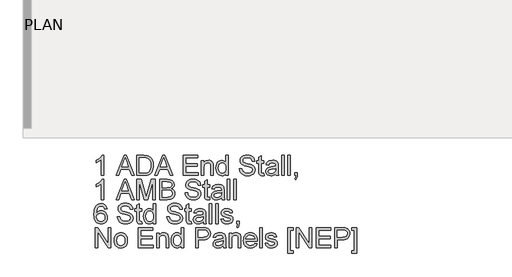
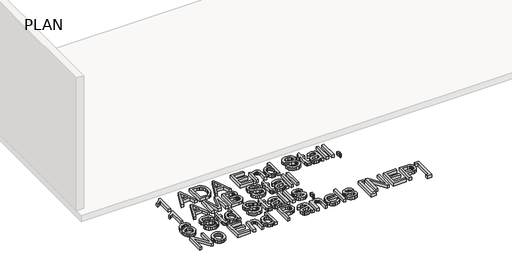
# One storey, part 5 of 21: 1 proxy.
"""IFC4 building model written with IfcOpenShell, lengths in millimetres."""

from ifc_helpers import new_model, si_unit, origin, origin_with_axes, place, context, project, spatial, polyline, outline, extrude, element, save

model = new_model("IFC4")

# Units and contexts
model_context = context("Model", 3, world=origin())
ifc_project = project(units=[si_unit("LENGTHUNIT", "METRE", prefix="MILLI")], contexts=[model_context])

# Site, building, storey
site = spatial("IfcSite", under=ifc_project)
building = spatial("IfcBuilding", under=site)
storey = spatial("IfcBuildingStorey", under=building, Name="PLAN", Elevation=0.0)

# Proxy
placement = place(None, origin())
element("IfcBuildingElementProxy", 1, Name="12\" Arial", ObjectType="12\" Arial", at=placement, inside=storey, context=model_context, shape_type="SweptSolid", body=[
    extrude(outline(polyline([(9828.5429993, -21890.1604361), (9790.4721126, -21890.1604361), (9790.4721126, -21652.8122515), (9754.4088702, -21678.5026643), (9714.330339, -21697.7240007), (9714.330339, -21661.7351156), (9744.2312284, -21645.4694779), (9770.1354182, -21626.1180164), (9790.5557644, -21605.5396611), (9804.0051231, -21585.5933421), (9828.5429993, -21585.5933421), (9828.5429993, -21890.1604361)])), origin_with_axes(), (0.0, 0.0, 1.0), 50.8),
    extrude(outline(polyline([(10016.7410743, -21890.1604361), (10138.3150974, -21585.5933421), (10170.7348369, -21585.5933421), (10292.3088601, -21890.1604361), (10252.0816145, -21890.1604361), (10217.2080874, -21794.9832192), (10091.7674898, -21794.9832192), (10056.9683199, -21890.1604361), (10016.7410743, -21890.1604361)]), holes=[polyline([(10105.7466435, -21756.9123325), (10203.3032908, -21756.9123325), (10175.8654838, -21682.0346314), (10154.5249672, -21623.6642288), (10135.563881, -21675.4911977), (10105.7466435, -21756.9123325)])]), origin_with_axes(), (0.0, 0.0, 1.0), 50.8),
    extrude(outline(polyline([(10332.9822489, -21890.1604361), (10332.9822489, -21585.5933421), (10438.0489735, -21585.5933421), (10492.4040872, -21589.9804169), (10516.6817132, -21598.4385485), (10537.167122, -21611.7670767), (10558.2287991, -21634.9665233), (10573.2303643, -21663.8171172), (10582.2089963, -21697.7611793), (10585.2018736, -21736.2410307), (10583.1756399, -21768.930315), (10577.0969388, -21797.6972571), (10567.8394673, -21822.18866), (10556.2769226, -21842.0513273), (10542.9669836, -21857.731402), (10528.4673295, -21869.6750273), (10511.8206112, -21878.5328289), (10492.0694798, -21884.9554321), (10443.1052631, -21890.1604361), (10332.9822489, -21890.1604361)]), holes=[polyline([(10371.0531356, -21852.0895494), (10438.4207595, -21852.0895494), (10466.2861204, -21850.7139412), (10487.4221547, -21846.5871165), (10503.3717743, -21839.9507363), (10515.677891, -21831.0464616), (10528.9041781, -21814.567047), (10538.840159, -21793.235825), (10545.0582799, -21766.9598492), (10547.1309869, -21735.6461731), (10543.0692248, -21694.1548551), (10530.8839385, -21663.5196884), (10512.8802013, -21642.4766006), (10491.3630864, -21629.7615193), (10469.4648907, -21625.1885514), (10437.3797586, -21623.6642288), (10371.0531356, -21623.6642288), (10371.0531356, -21852.0895494)])]), origin_with_axes(), (0.0, 0.0, 1.0), 50.8),
    extrude(outline(polyline([(10602.0809582, -21890.1604361), (10723.6549813, -21585.5933421), (10756.0747208, -21585.5933421), (10877.648744, -21890.1604361), (10837.4214984, -21890.1604361), (10802.5479713, -21794.9832192), (10677.1073737, -21794.9832192), (10642.3082038, -21890.1604361), (10602.0809582, -21890.1604361)]), holes=[polyline([(10691.0865274, -21756.9123325), (10788.6431748, -21756.9123325), (10761.2053677, -21682.0346314), (10739.8648511, -21623.6642288), (10720.9037649, -21675.4911977), (10691.0865274, -21756.9123325)])]), origin_with_axes(), (0.0, 0.0, 1.0), 50.8),
    extrude(outline(polyline([(11037.2936539, -21890.1604361), (11037.2936539, -21585.5933421), (11256.2012528, -21585.5933421), (11256.2012528, -21623.6642288), (11075.3645407, -21623.6642288), (11075.3645407, -21714.0825849), (11246.6835311, -21714.0825849), (11246.6835311, -21752.1534716), (11075.3645407, -21752.1534716), (11075.3645407, -21852.0895494), (11260.9601136, -21852.0895494), (11260.9601136, -21890.1604361), (11037.2936539, -21890.1604361)])), origin_with_axes(), (0.0, 0.0, 1.0), 50.8),
    extrude(outline(polyline([(11313.3075829, -21890.1604361), (11313.3075829, -21666.4939764), (11351.3784697, -21666.4939764), (11351.3784697, -21697.7240007), (11364.6047567, -21681.9788635), (11380.4893137, -21670.7323369), (11399.0321407, -21663.9844209), (11420.2332375, -21661.7351156), (11438.999136, -21663.5475723), (11456.184944, -21668.9849426), (11470.5172945, -21677.368717), (11480.7228203, -21688.020386), (11492.1366506, -21716.0158721), (11494.144295, -21752.8226864), (11494.144295, -21890.1604361), (11456.0734082, -21890.1604361), (11456.0734082, -21757.9533333), (11451.6863334, -21724.2695214), (11445.6169269, -21714.2405939), (11436.1828571, -21706.4609718), (11424.0905173, -21701.4697447), (11410.046301, -21699.8060023), (11387.7484354, -21703.5424517), (11368.740876, -21714.7517997), (11361.1448232, -21723.9023827), (11355.7190712, -21736.4083344), (11351.3784697, -21771.4863438), (11351.3784697, -21890.1604361), (11313.3075829, -21890.1604361)])), origin_with_axes(), (0.0, 0.0, 1.0), 50.8),
    extrude(outline(polyline([(11684.4987288, -21890.1604361), (11684.4987288, -21854.2459082), (11673.1081351, -21872.0405158), (11659.3102271, -21884.7509498), (11643.1050046, -21892.3772102), (11624.4924678, -21894.919297), (11599.8802344, -21891.2386155), (11577.3500026, -21880.1965712), (11558.2773806, -21862.56462), (11544.0379767, -21839.1142178), (11535.1708805, -21810.793419), (11532.2151818, -21778.5502779), (11534.9385142, -21746.7068067), (11543.1085117, -21717.9491593), (11556.7158794, -21693.9131942), (11575.7513228, -21676.2347697), (11598.774171, -21665.3600291), (11624.3437534, -21661.7351156), (11642.9702322, -21664.3283229), (11659.4403522, -21672.1079451), (11673.4009166, -21684.0329811), (11684.4987288, -21699.0624303), (11684.4987288, -21585.5933421), (11722.5696155, -21585.5933421), (11722.5696155, -21890.1604361), (11684.4987288, -21890.1604361)]), holes=[polyline([(11570.2860685, -21778.4015635), (11574.5801969, -21812.838242), (11587.4625819, -21837.329645), (11606.1820072, -21851.9687189), (11627.9872563, -21856.8484102), (11649.7832107, -21852.1917905), (11668.0286088, -21838.2219314), (11680.3811988, -21814.6785828), (11684.4987288, -21781.3014943), (11680.3068416, -21744.8106981), (11667.73118, -21719.5106605), (11649.0210494, -21704.7321669), (11626.425755, -21699.8060023), (11604.3974343, -21704.5369792), (11586.3472239, -21718.7299099), (11574.3013574, -21743.1097771), (11570.2860685, -21778.4015635)])]), origin_with_axes(), (0.0, 0.0, 1.0), 50.8),
    extrude(outline(polyline([(11889.1297451, -21785.4654975), (11927.2006319, -21785.4654975), (11931.5691174, -21806.5922372), (11939.46957, -21823.5735629), (11951.794276, -21837.0508055), (11969.4355219, -21847.6652959), (11990.9991101, -21854.5526316), (12015.0908431, -21856.8484102), (12036.3012346, -21855.1103106), (12054.8719455, -21849.8960119), (12069.919984, -21841.6423627), (12080.5623583, -21830.7862114), (12086.892015, -21818.3220856), (12089.0019006, -21805.2445129), (12087.4218101, -21792.5015477), (12082.6815385, -21781.4873873), (12073.0522811, -21772.0904961), (12056.8052327, -21764.1993381), (12001.3719396, -21749.6625054), (11964.9833845, -21740.0425426), (11941.700286, -21730.8873122), (11922.7484945, -21718.0792844), (11909.3177251, -21702.5572188), (11901.3150314, -21684.6557227), (11898.6474668, -21664.7094036), (11901.9470676, -21642.411538), (11911.8458699, -21621.6194058), (11928.0836236, -21603.9967492), (11950.4000785, -21591.2073107), (11977.18726, -21583.4276886), (12006.8371938, -21580.8344812), (12038.9595045, -21583.548519), (12067.0665264, -21591.6906325), (12090.1544372, -21605.0935179), (12107.2194148, -21623.5898716), (12118.0197982, -21646.0271569), (12122.3139265, -21671.2528373), (12084.2430398, -21671.2528373), (12077.2534629, -21648.5367124), (12062.6794516, -21632.1409497), (12039.9075588, -21622.2142634), (12008.3243378, -21618.905368), (11975.9975448, -21622.1770848), (11953.8205097, -21631.9922353), (11940.9938926, -21646.4361215), (11936.7183536, -21663.5940456), (11939.7484095, -21678.2238248), (11948.8385773, -21689.9908518), (11970.3278083, -21700.5123957), (12011.0011971, -21711.2570112), (12052.9758369, -21721.462537), (12078.3688209, -21730.3668118), (12100.0718289, -21744.1786618), (12115.2128138, -21761.2250501), (12124.107794, -21781.3200836), (12127.0727874, -21804.2778693), (12123.6616508, -21827.7468608), (12113.428241, -21849.8216547), (12096.7908174, -21868.8199195), (12074.1676391, -21883.0593235), (12046.9621983, -21891.9543036), (12016.5779871, -21894.919297), (11979.2785563, -21891.7219373), (11948.5783271, -21882.1298584), (11924.1241027, -21866.1058817), (11905.5626865, -21843.6128285), (11893.6469451, -21816.2122), (11889.1297451, -21785.4654975)])), origin_with_axes(), (0.0, 0.0, 1.0), 50.8),
    extrude(outline(polyline([(12260.320891, -21858.4099114), (12265.0797519, -21891.2757941), (12236.600944, -21894.919297), (12218.3276619, -21893.3392065), (12204.7017049, -21888.5989349), (12195.0724474, -21881.2933399), (12188.7892639, -21872.0172792), (12185.3316541, -21856.0862489), (12184.1791175, -21828.8157455), (12184.1791175, -21704.5648632), (12155.6259524, -21704.5648632), (12155.6259524, -21666.4939764), (12184.1791175, -21666.4939764), (12184.1791175, -21612.1388627), (12222.2500043, -21589.7573453), (12222.2500043, -21666.4939764), (12260.320891, -21666.4939764), (12260.320891, -21704.5648632), (12222.2500043, -21704.5648632), (12222.2500043, -21827.7003875), (12224.2576487, -21847.3306885), (12230.7639037, -21854.2830868), (12243.7392353, -21856.8484102), (12260.320891, -21858.4099114)])), origin_with_axes(), (0.0, 0.0, 1.0), 50.8),
    extrude(outline(polyline([(12441.1576031, -21861.6072711), (12422.9679729, -21877.2036939), (12404.239253, -21887.4092197), (12384.5438894, -21893.0417776), (12363.4543284, -21894.919297), (12331.6387411, -21890.402097), (12308.1697497, -21876.8504972), (12293.6979795, -21856.2721419), (12288.8740561, -21830.6746756), (12290.6958075, -21814.8923597), (12296.1610618, -21800.5600093), (12304.5913094, -21788.2910712), (12315.3080409, -21778.6989923), (12341.9650974, -21766.2069826), (12374.9053373, -21760.4814781), (12413.8313319, -21754.4585448), (12440.9345315, -21747.3946108), (12441.1576031, -21738.9178899), (12438.5365118, -21721.9272695), (12430.6732378, -21710.810868), (12413.0877599, -21702.5572188), (12388.5870622, -21699.8060023), (12365.908116, -21701.6370484), (12350.0700323, -21707.1301866), (12339.2696489, -21717.2892391), (12331.7038037, -21733.1180282), (12293.6329169, -21728.3591674), (12300.2414131, -21707.5391512), (12310.1030369, -21691.180567), (12324.1379585, -21678.669968), (12343.2663484, -21669.3939072), (12366.6609827, -21663.6498135), (12393.4946375, -21661.7351156), (12419.2315236, -21663.4267419), (12439.6332805, -21668.5016208), (12455.0159264, -21676.1325286), (12465.6954793, -21685.4922412), (12472.7780027, -21697.0640806), (12477.3695599, -21711.3313684), (12479.2284899, -21744.6433944), (12479.2284899, -21792.0089312), (12481.1617771, -21858.1496612), (12488.7462116, -21890.1604361), (12450.6753248, -21890.1604361), (12444.5780343, -21876.9248544), (12441.1576031, -21861.6072711)]), holes=[polyline([(12441.1576031, -21785.4654975), (12379.7385553, -21797.139578), (12346.9842084, -21803.3112257), (12332.1499469, -21813.3494478), (12326.9449428, -21827.9978163), (12329.7798111, -21839.3187001), (12338.2844159, -21848.5947609), (12352.2728643, -21854.7849979), (12371.5592633, -21856.8484102), (12392.0074935, -21854.5712209), (12410.0762932, -21847.7396531), (12424.7246618, -21837.6735471), (12434.9115983, -21825.6927431), (12439.4287982, -21813.3494478), (12440.9345315, -21796.2472916), (12441.1576031, -21785.4654975)])]), origin_with_axes(), (0.0, 0.0, 1.0), 50.8),
    extrude(outline(polyline([(12531.5759592, -21890.1604361), (12531.5759592, -21585.5933421), (12569.6468459, -21585.5933421), (12569.6468459, -21890.1604361), (12531.5759592, -21890.1604361)])), origin_with_axes(), (0.0, 0.0, 1.0), 50.8),
    extrude(outline(polyline([(12626.7531761, -21890.1604361), (12626.7531761, -21585.5933421), (12664.8240628, -21585.5933421), (12664.8240628, -21890.1604361), (12626.7531761, -21890.1604361)])), origin_with_axes(), (0.0, 0.0, 1.0), 50.8),
    extrude(outline(polyline([(12731.4481147, -21890.1604361), (12731.4481147, -21852.0895494), (12769.5190014, -21852.0895494), (12769.5190014, -21890.1604361), (12767.8087858, -21911.9378013), (12762.6781389, -21929.0864307), (12753.8296321, -21942.2383606), (12740.9658363, -21952.0256271), (12731.4481147, -21937.7490446), (12739.7017639, -21930.8524142), (12745.4272684, -21921.3161032), (12750.4092008, -21890.1604361), (12731.4481147, -21890.1604361)])), origin_with_axes(), (0.0, 0.0, 1.0), 50.8),
    extrude(outline(polyline([(9828.5429993, -22256.2131005), (9790.4721126, -22256.2131005), (9790.4721126, -22018.8649158), (9754.4088702, -22044.5553287), (9714.330339, -22063.776665), (9714.330339, -22027.7877799), (9744.2312284, -22011.5221423), (9770.1354182, -21992.1706808), (9790.5557644, -21971.5923255), (9804.0051231, -21951.6460064), (9828.5429993, -21951.6460064), (9828.5429993, -22256.2131005)])), origin_with_axes(), (0.0, 0.0, 1.0), 50.8),
    extrude(outline(polyline([(10016.7410743, -22256.2131005), (10138.3150974, -21951.6460064), (10170.7348369, -21951.6460064), (10292.3088601, -22256.2131005), (10252.0816145, -22256.2131005), (10217.2080874, -22161.0358836), (10091.7674898, -22161.0358836), (10056.9683199, -22256.2131005), (10016.7410743, -22256.2131005)]), holes=[polyline([(10105.7466435, -22122.9649968), (10203.3032908, -22122.9649968), (10175.8654838, -22048.0872957), (10154.5249672, -21989.7168932), (10135.563881, -22041.543862), (10105.7466435, -22122.9649968)])]), origin_with_axes(), (0.0, 0.0, 1.0), 50.8),
    extrude(outline(polyline([(10332.9822489, -22256.2131005), (10332.9822489, -21951.6460064), (10398.4909427, -21951.6460064), (10460.8022769, -22166.3152448), (10473.3686438, -22211.1526368), (10486.9760115, -22162.5973848), (10548.2463449, -21951.6460064), (10613.7550387, -21951.6460064), (10613.7550387, -22256.2131005), (10575.6841519, -22256.2131005), (10575.6841519, -21989.7168932), (10499.1705924, -22256.2131005), (10447.5666951, -22256.2131005), (10371.0531356, -21989.7168932), (10371.0531356, -22256.2131005), (10332.9822489, -22256.2131005)])), origin_with_axes(), (0.0, 0.0, 1.0), 50.8),
    extrude(outline(polyline([(10680.3790905, -22256.2131005), (10680.3790905, -21951.6460064), (10796.5993952, -21951.6460064), (10828.5636969, -21953.8860171), (10853.5198324, -21960.6060491), (10872.6482222, -21971.9734061), (10887.1292871, -21988.1553919), (10896.2473388, -22007.1908353), (10899.2866894, -22027.1185651), (10896.7306606, -22045.4569097), (10889.0625743, -22062.6984856), (10876.2266625, -22077.7837027), (10858.1671574, -22089.6529709), (10879.7400403, -22100.9180868), (10895.6803652, -22118.0574216), (10905.5233996, -22139.9370279), (10908.8044111, -22165.4229584), (10906.5644004, -22186.6612339), (10899.8443684, -22206.3565974), (10889.815441, -22223.1055569), (10877.648744, -22235.5046201), (10862.7494199, -22244.4832521), (10844.5226111, -22250.9709178), (10795.7071088, -22256.2131005), (10680.3790905, -22256.2131005)]), holes=[polyline([(10718.4499773, -22075.3763884), (10787.9739599, -22075.3763884), (10828.5729915, -22072.1046715), (10842.7845115, -22066.4628189), (10852.999332, -22058.013982), (10859.161685, -22046.8882858), (10861.2158026, -22033.2158556), (10859.3011047, -22019.9430952), (10853.557011, -22008.3805505), (10844.2437716, -21999.3554453), (10831.6216368, -21993.6950034), (10782.6945987, -21989.7168932), (10718.4499773, -21989.7168932), (10718.4499773, -22075.3763884)]), polyline([(10718.4499773, -22218.1422137), (10796.525038, -22218.1422137), (10824.7807743, -22216.6550697), (10848.6866143, -22208.3642418), (10864.5246981, -22191.4479787), (10869.1813178, -22179.4950586), (10870.7335243, -22165.7947444), (10868.9117729, -22149.8823035), (10863.4465187, -22136.2005785), (10853.900913, -22125.5024363), (10839.8381074, -22118.5407434), (10819.9196723, -22114.7206422), (10792.807178, -22113.4472751), (10718.4499773, -22113.4472751), (10718.4499773, -22218.1422137)])]), origin_with_axes(), (0.0, 0.0, 1.0), 50.8),
    extrude(outline(polyline([(11065.846819, -22151.5181619), (11103.9177057, -22151.5181619), (11108.2861913, -22172.6449015), (11116.1866438, -22189.6262272), (11128.5113499, -22203.1034699), (11146.1525957, -22213.7179603), (11167.7161839, -22220.605296), (11191.807917, -22222.9010745), (11213.0183085, -22221.162975), (11231.5890193, -22215.9486763), (11246.6370578, -22207.695027), (11257.2794322, -22196.8388757), (11263.6090889, -22184.3747499), (11265.7189744, -22171.2971773), (11264.1388839, -22158.554212), (11259.3986124, -22147.5400516), (11249.7693549, -22138.1431604), (11233.5223065, -22130.2520025), (11178.0890134, -22115.7151697), (11141.7004583, -22106.0952069), (11118.4173599, -22096.9399766), (11099.4655683, -22084.1319487), (11086.034799, -22068.6098831), (11078.0321052, -22050.708387), (11075.3645407, -22030.7620679), (11078.6641414, -22008.4642024), (11088.5629438, -21987.6720701), (11104.8006975, -21970.0494136), (11127.1171523, -21957.259975), (11153.9043339, -21949.4803529), (11183.5542677, -21946.8871455), (11215.6765784, -21949.6011834), (11243.7836002, -21957.7432969), (11266.8715111, -21971.1461823), (11283.9364886, -21989.642536), (11294.736872, -22012.0798213), (11299.0310004, -22037.3055016), (11260.9601136, -22037.3055016), (11253.9705367, -22014.5893768), (11239.3965254, -21998.193614), (11216.6246327, -21988.2669277), (11185.0414117, -21984.9580323), (11152.7146187, -21988.2297491), (11130.5375836, -21998.0448996), (11117.7109665, -22012.4887859), (11113.4354274, -22029.6467099), (11116.4654833, -22044.2764892), (11125.5556511, -22056.0435162), (11147.0448821, -22066.5650601), (11187.7182709, -22077.3096756), (11229.6929107, -22087.5152014), (11255.0858947, -22096.4194762), (11276.7889027, -22110.2313262), (11291.9298877, -22127.2777144), (11300.8248678, -22147.3727479), (11303.7898612, -22170.3305337), (11300.3787246, -22193.7995251), (11290.1453149, -22215.8743191), (11273.5078912, -22234.8725839), (11250.8847129, -22249.1119878), (11223.6792721, -22258.0069679), (11193.295061, -22260.9719613), (11155.9956302, -22257.7746017), (11125.2954009, -22248.1825228), (11100.8411765, -22232.158546), (11082.2797603, -22209.6654928), (11070.3640189, -22182.2648644), (11065.846819, -22151.5181619)])), origin_with_axes(), (0.0, 0.0, 1.0), 50.8),
    extrude(outline(polyline([(11437.0379649, -22224.4625758), (11441.7968257, -22257.3284585), (11413.3180178, -22260.9719613), (11395.0447358, -22259.3918708), (11381.4187787, -22254.6515992), (11371.7895212, -22247.3460043), (11365.5063378, -22238.0699435), (11362.048728, -22222.1389132), (11360.8961913, -22194.8684099), (11360.8961913, -22070.6175275), (11332.3430263, -22070.6175275), (11332.3430263, -22032.5466408), (11360.8961913, -22032.5466408), (11360.8961913, -21978.191527), (11398.9670781, -21955.8100096), (11398.9670781, -22032.5466408), (11437.0379649, -22032.5466408), (11437.0379649, -22070.6175275), (11398.9670781, -22070.6175275), (11398.9670781, -22193.7530519), (11400.9747225, -22213.3833529), (11407.4809776, -22220.3357511), (11420.4563091, -22222.9010745), (11437.0379649, -22224.4625758)])), origin_with_axes(), (0.0, 0.0, 1.0), 50.8),
    extrude(outline(polyline([(11617.874677, -22227.6599354), (11599.6850467, -22243.2563582), (11580.9563268, -22253.461884), (11561.2609633, -22259.094442), (11540.1714022, -22260.9719613), (11508.355815, -22256.4547614), (11484.8868235, -22242.9031615), (11470.4150533, -22222.3248062), (11465.5911299, -22196.7273399), (11467.4128813, -22180.9450241), (11472.8781356, -22166.6126736), (11481.3083832, -22154.3437355), (11492.0251148, -22144.7516566), (11518.6821712, -22132.2596469), (11551.6224111, -22126.5341424), (11590.5484057, -22120.5112092), (11617.6516054, -22113.4472751), (11617.874677, -22104.9705542), (11615.2535856, -22087.9799339), (11607.3903117, -22076.8635324), (11589.8048337, -22068.6098831), (11565.3041361, -22065.8586667), (11542.6251899, -22067.6897127), (11526.7871061, -22073.1828509), (11515.9867227, -22083.3419035), (11508.4208775, -22099.1706926), (11470.3499908, -22094.4118317), (11476.958487, -22073.5918155), (11486.8201107, -22057.2332314), (11500.8550324, -22044.7226324), (11519.9834222, -22035.4465716), (11543.3780565, -22029.7024778), (11570.2117113, -22027.7877799), (11595.9485974, -22029.4794062), (11616.3503543, -22034.5542852), (11631.7330002, -22042.1851929), (11642.4125532, -22051.5449055), (11649.4950766, -22063.1167449), (11654.0866337, -22077.3840328), (11655.9455637, -22110.6960587), (11655.9455637, -22158.0615955), (11657.8788509, -22224.2023256), (11665.4632854, -22256.2131005), (11627.3923987, -22256.2131005), (11621.2951082, -22242.9775187), (11617.874677, -22227.6599354)]), holes=[polyline([(11617.874677, -22151.5181619), (11556.4556292, -22163.1922424), (11523.7012823, -22169.36389), (11508.8670207, -22179.4021121), (11503.6620167, -22194.0504807), (11506.496885, -22205.3713645), (11515.0014898, -22214.6474253), (11528.9899382, -22220.8376622), (11548.2763371, -22222.9010745), (11568.7245673, -22220.6238853), (11586.7933671, -22213.7923175), (11601.4417356, -22203.7262114), (11611.6286721, -22191.7454075), (11616.145872, -22179.4021121), (11617.6516054, -22162.299956), (11617.874677, -22151.5181619)])]), origin_with_axes(), (0.0, 0.0, 1.0), 50.8),
    extrude(outline(polyline([(11708.293033, -22256.2131005), (11708.293033, -21951.6460064), (11746.3639198, -21951.6460064), (11746.3639198, -22256.2131005), (11708.293033, -22256.2131005)])), origin_with_axes(), (0.0, 0.0, 1.0), 50.8),
    extrude(outline(polyline([(11803.4702499, -22256.2131005), (11803.4702499, -21951.6460064), (11841.5411367, -21951.6460064), (11841.5411367, -22256.2131005), (11803.4702499, -22256.2131005)])), origin_with_axes(), (0.0, 0.0, 1.0), 50.8),
    extrude(outline(polyline([(9880.8904686, -22398.5993051), (9842.8195818, -22403.3581659), (9836.6851128, -22384.4900263), (9828.3942849, -22371.6076412), (9811.124825, -22359.7290784), (9790.249041, -22355.7695575), (9772.5520272, -22358.0746307), (9755.8960142, -22364.9898504), (9741.5915477, -22379.5545671), (9729.9081726, -22399.6031273), (9722.0170147, -22427.9611047), (9719.0891999, -22467.4540729), (9734.36031, -22449.6362287), (9752.661476, -22437.0791565), (9772.9702864, -22429.6341417), (9794.2643298, -22427.1524702), (9812.5562012, -22428.8487438), (9829.4352857, -22433.9375647), (9844.9015835, -22442.4189329), (9858.9550944, -22454.2928484), (9870.6338222, -22468.8529178), (9878.9757707, -22485.3927476), (9883.9809398, -22503.9123379), (9885.6493294, -22524.4116887), (9882.5077377, -22551.6728974), (9873.0829625, -22576.945051), (9858.1557545, -22598.3785141), (9838.5068642, -22614.1236513), (9815.0285781, -22623.7993821), (9788.6131825, -22627.0246256), (9765.9179707, -22624.8868561), (9745.4209436, -22618.4735476), (9727.1221012, -22607.7847), (9711.0214436, -22592.8203133), (9697.895074, -22572.9483514), (9688.5190957, -22547.5367781), (9682.8935088, -22516.5855933), (9681.0183131, -22480.0947971), (9683.1003147, -22439.1843947), (9689.3463196, -22404.2690416), (9699.7563277, -22375.3487379), (9714.330339, -22352.4234835), (9730.1265969, -22337.2313779), (9748.4417049, -22326.3798739), (9769.275663, -22319.8689715), (9792.6284714, -22317.6986707), (9826.0334438, -22323.0709785), (9852.7834467, -22339.1879017), (9871.5214613, -22364.7853681), (9880.8904686, -22398.5993051)]), holes=[polyline([(9719.0891999, -22523.8168311), (9721.292032, -22540.686621), (9727.9005282, -22556.7942496), (9738.1618219, -22570.6432782), (9751.3230464, -22580.7372682), (9767.2076034, -22586.8996212), (9785.6388945, -22588.9537389), (9810.7623337, -22584.6967891), (9830.5134651, -22571.9259399), (9843.3121983, -22551.8494957), (9847.5784427, -22525.6757611), (9843.3679662, -22500.5523219), (9830.7365367, -22481.3960481), (9810.6507979, -22469.2665297), (9784.0773933, -22465.2233569), (9758.9911327, -22469.2665297), (9738.0131075, -22481.3960481), (9723.8201768, -22500.0875894), (9719.0891999, -22523.8168311)])]), origin_with_axes(), (0.0, 0.0, 1.0), 50.8),
    extrude(outline(polyline([(10037.9328765, -22517.5708262), (10076.0037632, -22517.5708262), (10080.3722488, -22538.6975659), (10088.2727014, -22555.6788916), (10100.5974074, -22569.1561342), (10118.2386532, -22579.7706246), (10139.8022414, -22586.6579603), (10163.8939745, -22588.9537389), (10185.104366, -22587.2156393), (10203.6750768, -22582.0013406), (10218.7231153, -22573.7476913), (10229.3654897, -22562.89154), (10235.6951464, -22550.4274143), (10237.805032, -22537.3498416), (10236.2249415, -22524.6068763), (10231.4846699, -22513.592716), (10221.8554124, -22504.1958247), (10205.6083641, -22496.3046668), (10150.1750709, -22481.7678341), (10113.7865158, -22472.1478712), (10090.5034174, -22462.9926409), (10071.5516259, -22450.1846131), (10058.1208565, -22434.6625474), (10050.1181627, -22416.7610514), (10047.4505982, -22396.8147323), (10050.750199, -22374.5168667), (10060.6490013, -22353.7247345), (10076.886755, -22336.1020779), (10099.2032099, -22323.3126394), (10125.9903914, -22315.5330173), (10155.6403252, -22312.9398099), (10187.7626359, -22315.6538477), (10215.8696578, -22323.7959612), (10238.9575686, -22337.1988466), (10256.0225461, -22355.6952003), (10266.8229295, -22378.1324856), (10271.1170579, -22403.3581659), (10233.0461711, -22403.3581659), (10226.0565943, -22380.6420411), (10211.4825829, -22364.2462784), (10188.7106902, -22354.3195921), (10157.1274692, -22351.0106966), (10124.8006762, -22354.2824135), (10102.6236411, -22364.097564), (10089.797024, -22378.5414502), (10085.5214849, -22395.6993743), (10088.5515409, -22410.3291535), (10097.6417086, -22422.0961805), (10119.1309396, -22432.6177244), (10159.8043284, -22443.3623399), (10201.7789682, -22453.5678657), (10227.1719523, -22462.4721405), (10248.8749602, -22476.2839905), (10264.0159452, -22493.3303788), (10272.9109253, -22513.4254123), (10275.8759187, -22536.383198), (10272.4647821, -22559.8521895), (10262.2313724, -22581.9269834), (10245.5939487, -22600.9252482), (10222.9707704, -22615.1646521), (10195.7653296, -22624.0596323), (10165.3811185, -22627.0246256), (10128.0816877, -22623.827266), (10097.3814584, -22614.2351871), (10072.9272341, -22598.2112104), (10054.3658178, -22575.7181572), (10042.4500764, -22548.3175287), (10037.9328765, -22517.5708262)])), origin_with_axes(), (0.0, 0.0, 1.0), 50.8),
    extrude(outline(polyline([(10409.1240224, -22590.5152401), (10413.8828832, -22623.3811228), (10385.4040754, -22627.0246256), (10367.1307933, -22625.4445351), (10353.5048363, -22620.7042636), (10343.8755788, -22613.3986686), (10337.5923953, -22604.1226078), (10334.1347855, -22588.1915776), (10332.9822489, -22560.9210742), (10332.9822489, -22436.6701919), (10304.4290838, -22436.6701919), (10304.4290838, -22398.5993051), (10332.9822489, -22398.5993051), (10332.9822489, -22344.2441914), (10371.0531356, -22321.862674), (10371.0531356, -22398.5993051), (10409.1240224, -22398.5993051), (10409.1240224, -22436.6701919), (10371.0531356, -22436.6701919), (10371.0531356, -22559.8057162), (10373.06078, -22579.4360172), (10379.5670351, -22586.3884155), (10392.5423666, -22588.9537389), (10409.1240224, -22590.5152401)])), origin_with_axes(), (0.0, 0.0, 1.0), 50.8),
    extrude(outline(polyline([(10585.2018736, -22622.2657648), (10585.2018736, -22586.3512369), (10573.81128, -22604.1458445), (10560.0133719, -22616.8562785), (10543.8081495, -22624.4825388), (10525.1956127, -22627.0246256), (10500.5833792, -22623.3439442), (10478.0531474, -22612.3018999), (10458.9805254, -22594.6699487), (10444.7411215, -22571.2195465), (10435.8740253, -22542.8987477), (10432.9183266, -22510.6556065), (10435.6416591, -22478.8121354), (10443.8116565, -22450.054488), (10457.4190242, -22426.0185229), (10476.4544676, -22408.3400984), (10499.4773159, -22397.4653578), (10525.0468983, -22393.8404442), (10543.673377, -22396.4336516), (10560.143497, -22404.2132737), (10574.1040614, -22416.1383098), (10585.2018736, -22431.167759), (10585.2018736, -22317.6986707), (10623.2727604, -22317.6986707), (10623.2727604, -22622.2657648), (10585.2018736, -22622.2657648)]), holes=[polyline([(10470.9892134, -22510.5068921), (10475.2833417, -22544.9435707), (10488.1657267, -22569.4349737), (10506.885152, -22584.0740476), (10528.6904011, -22588.9537389), (10550.4863556, -22584.2971192), (10568.7317537, -22570.3272601), (10581.0843436, -22546.7839114), (10585.2018736, -22513.406823), (10581.0099864, -22476.9160267), (10568.4343249, -22451.6159892), (10549.7241943, -22436.8374956), (10527.1288999, -22431.911331), (10505.1005792, -22436.6423079), (10487.0503687, -22450.8352386), (10475.0045022, -22475.2151058), (10470.9892134, -22510.5068921)])]), origin_with_axes(), (0.0, 0.0, 1.0), 50.8),
    extrude(outline(polyline([(10789.83289, -22517.5708262), (10827.9037767, -22517.5708262), (10832.2722623, -22538.6975659), (10840.1727148, -22555.6788916), (10852.4974209, -22569.1561342), (10870.1386667, -22579.7706246), (10891.7022549, -22586.6579603), (10915.793988, -22588.9537389), (10937.0043795, -22587.2156393), (10955.5750903, -22582.0013406), (10970.6231288, -22573.7476913), (10981.2655032, -22562.89154), (10987.5951599, -22550.4274143), (10989.7050454, -22537.3498416), (10988.1249549, -22524.6068763), (10983.3846834, -22513.592716), (10973.7554259, -22504.1958247), (10957.5083775, -22496.3046668), (10902.0750844, -22481.7678341), (10865.6865293, -22472.1478712), (10842.4034309, -22462.9926409), (10823.4516393, -22450.1846131), (10810.02087, -22434.6625474), (10802.0181762, -22416.7610514), (10799.3506117, -22396.8147323), (10802.6502124, -22374.5168667), (10812.5490148, -22353.7247345), (10828.7867685, -22336.1020779), (10851.1032233, -22323.3126394), (10877.8904049, -22315.5330173), (10907.5403387, -22312.9398099), (10939.6626494, -22315.6538477), (10967.7696712, -22323.7959612), (10990.8575821, -22337.1988466), (11007.9225596, -22355.6952003), (11018.722943, -22378.1324856), (11023.0170714, -22403.3581659), (10984.9461846, -22403.3581659), (10977.9566077, -22380.6420411), (10963.3825964, -22364.2462784), (10940.6107037, -22354.3195921), (10909.0274827, -22351.0106966), (10876.7006897, -22354.2824135), (10854.5236546, -22364.097564), (10841.6970375, -22378.5414502), (10837.4214984, -22395.6993743), (10840.4515543, -22410.3291535), (10849.5417221, -22422.0961805), (10871.0309531, -22432.6177244), (10911.7043419, -22443.3623399), (10953.6789817, -22453.5678657), (10979.0719657, -22462.4721405), (11000.7749737, -22476.2839905), (11015.9159587, -22493.3303788), (11024.8109388, -22513.4254123), (11027.7759322, -22536.383198), (11024.3647956, -22559.8521895), (11014.1313859, -22581.9269834), (10997.4939622, -22600.9252482), (10974.8707839, -22615.1646521), (10947.6653431, -22624.0596323), (10917.281132, -22627.0246256), (10879.9817012, -22623.827266), (10849.2814719, -22614.2351871), (10824.8272475, -22598.2112104), (10806.2658313, -22575.7181572), (10794.3500899, -22548.3175287), (10789.83289, -22517.5708262)])), origin_with_axes(), (0.0, 0.0, 1.0), 50.8),
    extrude(outline(polyline([(11161.0240359, -22590.5152401), (11165.7828967, -22623.3811228), (11137.3040888, -22627.0246256), (11119.0308068, -22625.4445351), (11105.4048497, -22620.7042636), (11095.7755922, -22613.3986686), (11089.4924088, -22604.1226078), (11086.034799, -22588.1915776), (11084.8822623, -22560.9210742), (11084.8822623, -22436.6701919), (11056.3290973, -22436.6701919), (11056.3290973, -22398.5993051), (11084.8822623, -22398.5993051), (11084.8822623, -22344.2441914), (11122.9531491, -22321.862674), (11122.9531491, -22398.5993051), (11161.0240359, -22398.5993051), (11161.0240359, -22436.6701919), (11122.9531491, -22436.6701919), (11122.9531491, -22559.8057162), (11124.9607935, -22579.4360172), (11131.4670486, -22586.3884155), (11144.4423801, -22588.9537389), (11161.0240359, -22590.5152401)])), origin_with_axes(), (0.0, 0.0, 1.0), 50.8),
    extrude(outline(polyline([(11341.860748, -22593.7125997), (11323.6711177, -22609.3090226), (11304.9423978, -22619.5145484), (11285.2470343, -22625.1471063), (11264.1574732, -22627.0246256), (11232.341886, -22622.5074257), (11208.8728945, -22608.9558259), (11194.4011243, -22588.3774706), (11189.5772009, -22562.7800042), (11191.3989523, -22546.9976884), (11196.8642066, -22532.665338), (11205.2944542, -22520.3963998), (11216.0111858, -22510.804321), (11242.6682422, -22498.3123112), (11275.6084821, -22492.5868068), (11314.5344767, -22486.5638735), (11341.6376764, -22479.4999395), (11341.860748, -22471.0232186), (11339.2396566, -22454.0325982), (11331.3763827, -22442.9161967), (11313.7909047, -22434.6625474), (11289.2902071, -22431.911331), (11266.6112609, -22433.7423771), (11250.7731771, -22439.2355153), (11239.9727937, -22449.3945678), (11232.4069485, -22465.2233569), (11194.3360618, -22460.4644961), (11200.944558, -22439.6444799), (11210.8061817, -22423.2858957), (11224.8411034, -22410.7752967), (11243.9694932, -22401.4992359), (11267.3641275, -22395.7551422), (11294.1977823, -22393.8404442), (11319.9346684, -22395.5320706), (11340.3364253, -22400.6069495), (11355.7190712, -22408.2378572), (11366.3986242, -22417.5975699), (11373.4811476, -22429.1694092), (11378.0727047, -22443.4366971), (11379.9316347, -22476.748723), (11379.9316347, -22524.1142599), (11381.8649219, -22590.2549899), (11389.4493564, -22622.2657648), (11351.3784697, -22622.2657648), (11345.2811792, -22609.0301831), (11341.860748, -22593.7125997)]), holes=[polyline([(11341.860748, -22517.5708262), (11280.4417002, -22529.2449067), (11247.6873533, -22535.4165544), (11232.8530917, -22545.4547765), (11227.6480877, -22560.103145), (11230.482956, -22571.4240288), (11238.9875608, -22580.7000896), (11252.9760092, -22586.8903266), (11272.2624081, -22588.9537389), (11292.7106383, -22586.6765496), (11310.7794381, -22579.8449818), (11325.4278066, -22569.7788758), (11335.6147431, -22557.7980718), (11340.131943, -22545.4547765), (11341.6376764, -22528.3526203), (11341.860748, -22517.5708262)])]), origin_with_axes(), (0.0, 0.0, 1.0), 50.8),
    extrude(outline(polyline([(11432.279104, -22622.2657648), (11432.279104, -22317.6986707), (11470.3499908, -22317.6986707), (11470.3499908, -22622.2657648), (11432.279104, -22622.2657648)])), origin_with_axes(), (0.0, 0.0, 1.0), 50.8),
    extrude(outline(polyline([(11527.4563209, -22622.2657648), (11527.4563209, -22317.6986707), (11565.5272077, -22317.6986707), (11565.5272077, -22622.2657648), (11527.4563209, -22622.2657648)])), origin_with_axes(), (0.0, 0.0, 1.0), 50.8),
    extrude(outline(polyline([(11608.3569553, -22555.641713), (11646.427842, -22550.8828521), (11652.432186, -22567.1670791), (11664.0504986, -22579.1385884), (11681.3571371, -22586.4999513), (11704.4264586, -22588.9537389), (11727.2169406, -22586.7044336), (11743.2409173, -22579.9565176), (11752.7214604, -22570.1785457), (11755.8816415, -22558.8390726), (11752.7028711, -22549.1354579), (11743.1665601, -22541.7369164), (11703.9803154, -22530.8807651), (11646.6509136, -22512.2542864), (11632.1419648, -22502.8945737), (11621.6297156, -22490.5048052), (11615.244291, -22475.8750259), (11613.1158161, -22459.7952813), (11614.8260317, -22445.0446716), (11619.9566786, -22431.4280092), (11628.0430242, -22419.4843838), (11638.620336, -22409.7528852), (11662.8236048, -22398.4877693), (11695.5779517, -22393.8404442), (11720.3574888, -22395.7086689), (11741.9024877, -22401.3133429), (11759.2277155, -22410.1060819), (11771.3479392, -22421.5385015), (11779.3785169, -22436.4564149), (11784.4348065, -22455.7056352), (11746.3639198, -22460.4644961), (11741.5585857, -22448.4836921), (11732.0501586, -22439.4585869), (11717.7456922, -22433.798145), (11698.5522397, -22431.911331), (11676.6912227, -22433.7144931), (11662.1172114, -22439.1239795), (11653.91933, -22446.9314855), (11651.1867029, -22455.9287068), (11655.7224921, -22467.0079297), (11669.9247175, -22475.4102934), (11702.716243, -22483.5152283), (11758.5956793, -22501.4353137), (11773.3555836, -22510.004981), (11784.5463423, -22521.7348295), (11791.6009817, -22536.6620375), (11793.9525282, -22554.8237838), (11791.1920171, -22573.5989769), (11782.9104839, -22591.2588121), (11769.4239466, -22606.4183864), (11751.0484234, -22617.692797), (11728.852799, -22624.6916685), (11703.9059582, -22627.0246256), (11665.5190533, -22622.526015), (11637.5049779, -22609.0301831), (11618.804142, -22586.6858443), (11608.3569553, -22555.641713)])), origin_with_axes(), (0.0, 0.0, 1.0), 50.8),
    extrude(outline(polyline([(11846.2999975, -22622.2657648), (11846.2999975, -22584.194878), (11884.3708843, -22584.194878), (11884.3708843, -22622.2657648), (11882.6606687, -22644.04313), (11877.5300218, -22661.1917594), (11868.6815149, -22674.3436892), (11855.8177192, -22684.1309558), (11846.2999975, -22669.8543732), (11854.5536468, -22662.9577429), (11860.2791512, -22653.4214319), (11865.2610837, -22622.2657648), (11846.2999975, -22622.2657648)])), origin_with_axes(), (0.0, 0.0, 1.0), 50.8),
    extrude(outline(polyline([(9700.0537565, -22988.3184291), (9700.0537565, -22683.7513351), (9740.8015025, -22683.7513351), (9899.925912, -22925.0404513), (9899.925912, -22683.7513351), (9937.9967987, -22683.7513351), (9937.9967987, -22988.3184291), (9897.2490528, -22988.3184291), (9738.1246433, -22746.9549557), (9738.1246433, -22988.3184291), (9700.0537565, -22988.3184291)])), origin_with_axes(), (0.0, 0.0, 1.0), 50.8),
    extrude(outline(polyline([(9990.344268, -22876.4851993), (9992.403033, -22847.5184223), (9998.579328, -22822.5576395), (10008.873153, -22801.6028509), (10023.2845079, -22784.6540564), (10037.7934567, -22773.8211417), (10053.8081388, -22766.0833455), (10071.3285542, -22761.4406678), (10090.354703, -22759.8931086), (10111.3582885, -22761.7775989), (10130.3495823, -22767.4310698), (10147.3285844, -22776.8535213), (10162.2952947, -22790.0449535), (10174.5107885, -22806.559223), (10183.2361413, -22825.9501868), (10188.471353, -22848.2178447), (10190.2164235, -22873.3621969), (10187.1305997, -22911.8234589), (10177.8731282, -22941.1016067), (10162.7135539, -22963.0276863), (10141.9214217, -22979.4327437), (10117.2255364, -22989.6661534), (10090.354703, -22993.07729), (10069.044394, -22991.1997707), (10049.8765018, -22985.5672127), (10032.8510265, -22976.1796161), (10017.9679681, -22963.0369809), (10005.8825993, -22946.3623786), (9997.2501931, -22926.378881), (9992.0707493, -22903.0864878), (9990.344268, -22876.4851993)]), holes=[polyline([(10028.4151548, -22876.4108421), (10032.8208189, -22910.86611), (10046.0378114, -22935.4132808), (10065.9283625, -22950.1081226), (10090.354703, -22955.0064032), (10114.6695076, -22950.0802387), (10134.5228802, -22935.301745), (10147.7398726, -22910.4292614), (10152.1455368, -22875.2211269), (10147.7119887, -22841.7696812), (10134.4113444, -22817.5571177), (10114.5300879, -22802.8622759), (10090.354703, -22797.9639953), (10065.9283625, -22802.8436866), (10046.0378114, -22817.4827605), (10032.8208189, -22841.9741635), (10028.4151548, -22876.4108421)])]), origin_with_axes(), (0.0, 0.0, 1.0), 50.8),
    extrude(outline(polyline([(10356.7765531, -22988.3184291), (10356.7765531, -22683.7513351), (10575.6841519, -22683.7513351), (10575.6841519, -22721.8222218), (10394.8474398, -22721.8222218), (10394.8474398, -22812.2405779), (10566.1664303, -22812.2405779), (10566.1664303, -22850.3114646), (10394.8474398, -22850.3114646), (10394.8474398, -22950.2475424), (10580.4430128, -22950.2475424), (10580.4430128, -22988.3184291), (10356.7765531, -22988.3184291)])), origin_with_axes(), (0.0, 0.0, 1.0), 50.8),
    extrude(outline(polyline([(10632.7904821, -22988.3184291), (10632.7904821, -22764.6519694), (10670.8613688, -22764.6519694), (10670.8613688, -22795.8819937), (10684.0876559, -22780.1368565), (10699.9722129, -22768.8903299), (10718.5150398, -22762.1424139), (10739.7161367, -22759.8931086), (10758.4820352, -22761.7055654), (10775.6678432, -22767.1429357), (10790.0001937, -22775.52671), (10800.2057195, -22786.178379), (10811.6195498, -22814.1738651), (10813.6271942, -22850.9806794), (10813.6271942, -22988.3184291), (10775.5563074, -22988.3184291), (10775.5563074, -22856.1113263), (10771.1692326, -22822.4275144), (10765.0998261, -22812.3985869), (10755.6657562, -22804.6189648), (10743.5734165, -22799.6277377), (10729.5292002, -22797.9639953), (10707.2313346, -22801.7004447), (10688.2237752, -22812.9097927), (10680.6277224, -22822.0603757), (10675.2019704, -22834.5663274), (10670.8613688, -22869.6443368), (10670.8613688, -22988.3184291), (10632.7904821, -22988.3184291)])), origin_with_axes(), (0.0, 0.0, 1.0), 50.8),
    extrude(outline(polyline([(11003.981628, -22988.3184291), (11003.981628, -22952.4039012), (10992.5910343, -22970.1985088), (10978.7931262, -22982.9089428), (10962.5879038, -22990.5352032), (10943.975367, -22993.07729), (10919.3631336, -22989.3966086), (10896.8329018, -22978.3545642), (10877.7602798, -22960.722613), (10863.5208759, -22937.2722109), (10854.6537797, -22908.951412), (10851.6980809, -22876.7082709), (10854.4214134, -22844.8647997), (10862.5914109, -22816.1071523), (10876.1987786, -22792.0711872), (10895.234222, -22774.3927627), (10918.2570702, -22763.5180221), (10943.8266526, -22759.8931086), (10962.4531314, -22762.486316), (10978.9232513, -22770.2659381), (10992.8838158, -22782.1909741), (11003.981628, -22797.2204233), (11003.981628, -22683.7513351), (11042.0525147, -22683.7513351), (11042.0525147, -22988.3184291), (11003.981628, -22988.3184291)]), holes=[polyline([(10889.7689677, -22876.5595565), (10894.063096, -22910.9962351), (10906.9454811, -22935.487638), (10925.6649063, -22950.1267119), (10947.4701554, -22955.0064032), (10969.2661099, -22950.3497835), (10987.511508, -22936.3799245), (10999.864098, -22912.8365758), (11003.981628, -22879.4594873), (10999.7897408, -22842.9686911), (10987.2140792, -22817.6686535), (10968.5039486, -22802.8901599), (10945.9086542, -22797.9639953), (10923.8803335, -22802.6949722), (10905.8301231, -22816.8879029), (10893.7842565, -22841.2677701), (10889.7689677, -22876.5595565)])]), origin_with_axes(), (0.0, 0.0, 1.0), 50.8),
    extrude(outline(polyline([(11222.8892268, -22988.3184291), (11222.8892268, -22683.7513351), (11335.7634575, -22683.7513351), (11381.2700643, -22686.6512659), (11401.5602855, -22692.0700469), (11418.2627717, -22700.8906698), (11431.7121304, -22713.5128047), (11442.2429689, -22730.3361213), (11449.0466528, -22750.1801992), (11451.3145474, -22771.8646179), (11449.7832538, -22790.5608066), (11445.189373, -22807.7605565), (11437.532905, -22823.4638679), (11426.8138498, -22837.6707405), (11412.098095, -22849.4470622), (11392.4515284, -22857.8587205), (11367.8741499, -22862.9057155), (11338.3659595, -22864.5880472), (11260.9601136, -22864.5880472), (11260.9601136, -22988.3184291), (11222.8892268, -22988.3184291)]), holes=[polyline([(11260.9601136, -22826.5171604), (11340.5966756, -22826.5171604), (11374.3548447, -22823.022372), (11396.6620049, -22812.5380067), (11409.0982467, -22795.71469), (11413.2436606, -22773.2030475), (11410.7991677, -22756.1008914), (11403.4656887, -22741.6755944), (11392.1540996, -22730.8194431), (11377.7752759, -22724.4247239), (11339.7043891, -22721.8222218), (11260.9601136, -22721.8222218), (11260.9601136, -22826.5171604)])]), origin_with_axes(), (0.0, 0.0, 1.0), 50.8),
    extrude(outline(polyline([(11641.6689812, -22959.7652641), (11623.479351, -22975.3616869), (11604.750631, -22985.5672127), (11585.0552675, -22991.1997707), (11563.9657065, -22993.07729), (11532.1501192, -22988.56009), (11508.6811277, -22975.0084902), (11494.2093575, -22954.4301349), (11489.3854342, -22928.8326686), (11491.2071856, -22913.0503527), (11496.6724398, -22898.7180023), (11505.1026875, -22886.4490642), (11515.819419, -22876.8569853), (11542.4764755, -22864.3649756), (11575.4167154, -22858.6394711), (11614.3427099, -22852.6165379), (11641.4459096, -22845.5526038), (11641.6689812, -22837.0758829), (11639.0478899, -22820.0852626), (11631.1846159, -22808.9688611), (11613.5991379, -22800.7152118), (11589.0984403, -22797.9639953), (11566.4194941, -22799.7950414), (11550.5814103, -22805.2881796), (11539.7810269, -22815.4472322), (11532.2151818, -22831.2760213), (11494.144295, -22826.5171604), (11500.7527912, -22805.6971442), (11510.614415, -22789.3385601), (11524.6493366, -22776.827961), (11543.7777265, -22767.5519003), (11567.1723607, -22761.8078065), (11594.0060155, -22759.8931086), (11619.7429016, -22761.5847349), (11640.1446586, -22766.6596139), (11655.5273045, -22774.2905216), (11666.2068574, -22783.6502342), (11673.2893808, -22795.2220736), (11677.8809379, -22809.4893615), (11679.7398679, -22842.8013874), (11679.7398679, -22890.1669242), (11681.6731552, -22956.3076542), (11689.2575896, -22988.3184291), (11651.1867029, -22988.3184291), (11645.0894124, -22975.0828474), (11641.6689812, -22959.7652641)]), holes=[polyline([(11641.6689812, -22883.6234906), (11580.2499334, -22895.2975711), (11547.4955865, -22901.4692187), (11532.661325, -22911.5074408), (11527.4563209, -22926.1558094), (11530.2911892, -22937.4766932), (11538.795794, -22946.7527539), (11552.7842424, -22952.9429909), (11572.0706413, -22955.0064032), (11592.5188715, -22952.729214), (11610.5876713, -22945.8976461), (11625.2360398, -22935.8315401), (11635.4229763, -22923.8507361), (11639.9401763, -22911.5074408), (11641.4459096, -22894.4052847), (11641.6689812, -22883.6234906)])]), origin_with_axes(), (0.0, 0.0, 1.0), 50.8),
    extrude(outline(polyline([(11732.0873372, -22988.3184291), (11732.0873372, -22764.6519694), (11770.158224, -22764.6519694), (11770.158224, -22795.8819937), (11783.3845111, -22780.1368565), (11799.2690681, -22768.8903299), (11817.811895, -22762.1424139), (11839.0129918, -22759.8931086), (11857.7788904, -22761.7055654), (11874.9646984, -22767.1429357), (11889.2970488, -22775.52671), (11899.5025746, -22786.178379), (11910.9164049, -22814.1738651), (11912.9240493, -22850.9806794), (11912.9240493, -22988.3184291), (11874.8531626, -22988.3184291), (11874.8531626, -22856.1113263), (11870.4660877, -22822.4275144), (11864.3966812, -22812.3985869), (11854.9626114, -22804.6189648), (11842.8702716, -22799.6277377), (11828.8260554, -22797.9639953), (11806.5281898, -22801.7004447), (11787.5206304, -22812.9097927), (11779.9245776, -22822.0603757), (11774.4988256, -22834.5663274), (11770.158224, -22869.6443368), (11770.158224, -22988.3184291), (11732.0873372, -22988.3184291)])), origin_with_axes(), (0.0, 0.0, 1.0), 50.8),
    extrude(outline(polyline([(12121.8677833, -22921.6943773), (12159.1950981, -22926.4532382), (12145.7457394, -22954.5788493), (12124.2843923, -22975.6033478), (12095.2943787, -22988.7088044), (12059.2590203, -22993.07729), (12035.6366671, -22991.1927997), (12014.588932, -22985.5393288), (11996.115815, -22976.1168772), (11980.217316, -22962.9254451), (11967.4325248, -22946.332171), (11958.3005311, -22926.7041937), (11952.8213348, -22904.0415131), (11950.9949361, -22878.3441293), (11952.8399241, -22851.775372), (11958.3748883, -22828.3575011), (11967.5998285, -22808.0905166), (11980.5147448, -22790.9744185), (11996.3714178, -22777.3763454), (12014.4216283, -22767.6634361), (12034.6653762, -22761.8356905), (12057.1026615, -22759.8931086), (12078.8172878, -22761.8310431), (12098.4545597, -22767.6448468), (12116.0144774, -22777.3345195), (12131.4970408, -22790.9000613), (12144.1354413, -22807.9789808), (12153.1628702, -22828.2087867), (12158.5793275, -22851.589479), (12160.3848133, -22878.1210577), (12160.1617417, -22888.3823514), (11989.0658229, -22888.3823514), (11995.6557298, -22916.8797486), (12010.9640185, -22937.8298899), (12033.0574017, -22950.7122749), (12060.0025923, -22955.0064032), (12080.2649295, -22953.0173481), (12097.3299071, -22947.0501828), (12111.197525, -22936.7331212), (12121.8677833, -22921.6943773)]), holes=[polyline([(11989.0658229, -22850.3114646), (12122.3139265, -22850.3114646), (12117.1646904, -22830.1978419), (12107.0707004, -22815.8097235), (12084.875076, -22802.4254274), (12056.9539471, -22797.9639953), (12031.2914182, -22801.5238463), (12010.0717321, -22812.2033993), (11995.3211224, -22828.8501176), (11989.0658229, -22850.3114646)])]), origin_with_axes(), (0.0, 0.0, 1.0), 50.8),
    extrude(outline(polyline([(12198.4557, -22988.3184291), (12198.4557, -22683.7513351), (12236.5265868, -22683.7513351), (12236.5265868, -22988.3184291), (12198.4557, -22988.3184291)])), origin_with_axes(), (0.0, 0.0, 1.0), 50.8),
    extrude(outline(polyline([(12279.3563344, -22921.6943773), (12317.4272212, -22916.9355165), (12323.4315651, -22933.2197434), (12335.0498777, -22945.1912527), (12352.3565162, -22952.5526156), (12375.4258377, -22955.0064032), (12398.2163197, -22952.7570979), (12414.2402965, -22946.0091819), (12423.7208396, -22936.23121), (12426.8810206, -22924.8917369), (12423.7022503, -22915.1881223), (12414.1659393, -22907.7895808), (12374.9796945, -22896.9334295), (12317.6502928, -22878.3069507), (12303.141344, -22868.9472381), (12292.6290947, -22856.5574695), (12286.2436701, -22841.9276903), (12284.1151952, -22825.8479456), (12285.8254109, -22811.0973359), (12290.9560577, -22797.4806735), (12299.0424033, -22785.5370482), (12309.6197151, -22775.8055495), (12333.8229839, -22764.5404336), (12366.5773308, -22759.8931086), (12391.3568679, -22761.7613333), (12412.9018669, -22767.3660073), (12430.2270946, -22776.1587462), (12442.3473183, -22787.5911658), (12450.377896, -22802.5090792), (12455.4341857, -22821.7582996), (12417.3632989, -22826.5171604), (12412.5579648, -22814.5363565), (12403.0495378, -22805.5112512), (12388.7450713, -22799.8508093), (12369.5516188, -22797.9639953), (12347.6906018, -22799.7671575), (12333.1165905, -22805.1766438), (12324.9187091, -22812.9841499), (12322.186082, -22821.9813712), (12326.7218712, -22833.0605941), (12340.9240966, -22841.4629578), (12373.7156221, -22849.5678926), (12429.5950584, -22867.487978), (12444.3549627, -22876.0576454), (12455.5457215, -22887.7874938), (12462.6003609, -22902.7147018), (12464.9519073, -22920.8764481), (12462.1913963, -22939.6516413), (12453.909863, -22957.3114764), (12440.4233258, -22972.4710507), (12422.0478025, -22983.7454613), (12399.8521781, -22990.7443328), (12374.9053373, -22993.07729), (12336.5184324, -22988.5786793), (12308.5043571, -22975.0828474), (12289.8035211, -22952.7385086), (12279.3563344, -22921.6943773)])), origin_with_axes(), (0.0, 0.0, 1.0), 50.8),
    extrude(outline(polyline([(12626.7531761, -23073.9779243), (12626.7531761, -22683.7513351), (12707.6538104, -22683.7513351), (12707.6538104, -22721.8222218), (12664.8240628, -22721.8222218), (12664.8240628, -23035.9070376), (12707.6538104, -23035.9070376), (12707.6538104, -23073.9779243), (12626.7531761, -23073.9779243)])), origin_with_axes(), (0.0, 0.0, 1.0), 50.8),
    extrude(outline(polyline([(12750.483558, -22988.3184291), (12750.483558, -22683.7513351), (12791.231304, -22683.7513351), (12950.3557135, -22925.0404513), (12950.3557135, -22683.7513351), (12988.4266003, -22683.7513351), (12988.4266003, -22988.3184291), (12947.6788543, -22988.3184291), (12788.5544448, -22746.9549557), (12788.5544448, -22988.3184291), (12750.483558, -22988.3184291)])), origin_with_axes(), (0.0, 0.0, 1.0), 50.8),
    extrude(outline(polyline([(13055.0506521, -22988.3184291), (13055.0506521, -22683.7513351), (13273.958251, -22683.7513351), (13273.958251, -22721.8222218), (13093.1215389, -22721.8222218), (13093.1215389, -22812.2405779), (13264.4405293, -22812.2405779), (13264.4405293, -22850.3114646), (13093.1215389, -22850.3114646), (13093.1215389, -22950.2475424), (13278.7171118, -22950.2475424), (13278.7171118, -22988.3184291), (13055.0506521, -22988.3184291)])), origin_with_axes(), (0.0, 0.0, 1.0), 50.8),
    extrude(outline(polyline([(13335.8234419, -22988.3184291), (13335.8234419, -22683.7513351), (13448.6976726, -22683.7513351), (13494.2042794, -22686.6512659), (13514.4945006, -22692.0700469), (13531.1969868, -22700.8906698), (13544.6463455, -22713.5128047), (13555.177184, -22730.3361213), (13561.9808679, -22750.1801992), (13564.2487625, -22771.8646179), (13562.7174689, -22790.5608066), (13558.1235881, -22807.7605565), (13550.4671201, -22823.4638679), (13539.7480649, -22837.6707405), (13525.0323101, -22849.4470622), (13505.3857435, -22857.8587205), (13480.808365, -22862.9057155), (13451.3001746, -22864.5880472), (13373.8943287, -22864.5880472), (13373.8943287, -22988.3184291), (13335.8234419, -22988.3184291)]), holes=[polyline([(13373.8943287, -22826.5171604), (13453.5308907, -22826.5171604), (13487.2890598, -22823.022372), (13509.59622, -22812.5380067), (13522.0324618, -22795.71469), (13526.1778757, -22773.2030475), (13523.7333828, -22756.1008914), (13516.3999038, -22741.6755944), (13505.0883147, -22730.8194431), (13490.709491, -22724.4247239), (13452.6386042, -22721.8222218), (13373.8943287, -22721.8222218), (13373.8943287, -22826.5171604)])]), origin_with_axes(), (0.0, 0.0, 1.0), 50.8),
    extrude(outline(polyline([(13673.7025619, -23073.9779243), (13592.8019276, -23073.9779243), (13592.8019276, -23035.9070376), (13635.6316752, -23035.9070376), (13635.6316752, -22721.8222218), (13592.8019276, -22721.8222218), (13592.8019276, -22683.7513351), (13673.7025619, -22683.7513351), (13673.7025619, -23073.9779243)])), origin_with_axes(), (0.0, 0.0, 1.0), 50.8),
])

save(model, "model.ifc")
